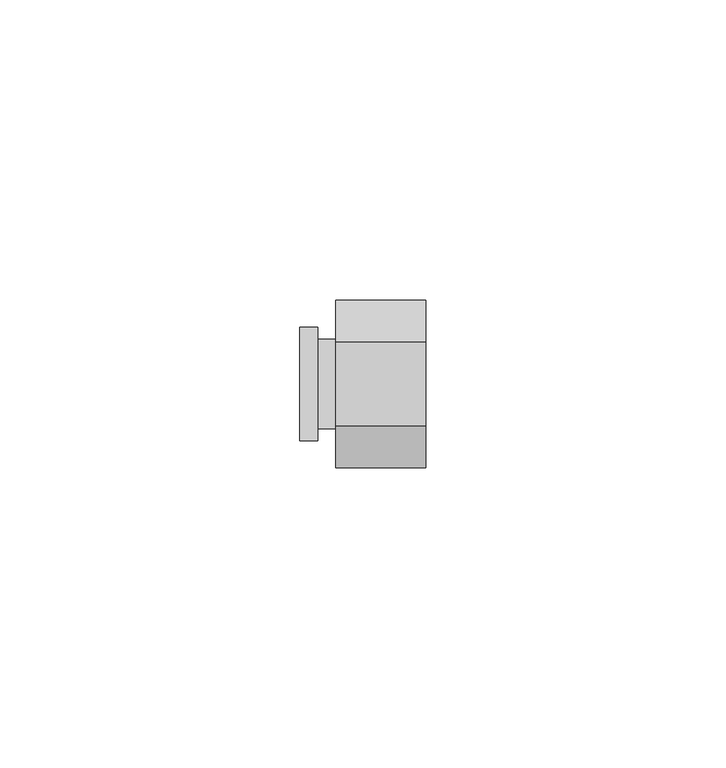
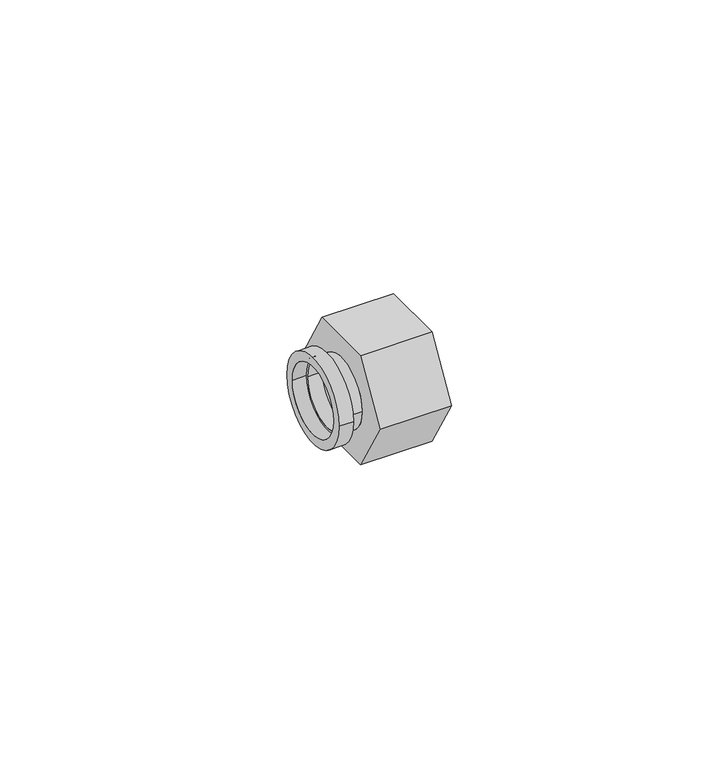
"""IFC4 building model written with IfcOpenShell, lengths in millimetres: pipe fitting geometry, БИР ПЕКС_КМП_Соединитель_Резьба_Наружная : Соединитель прямой с наружной резьбой_КМП."""

from ifc_helpers import new_model, si_unit, point, frame, origin, origin_2d, place, context, project, spatial, polyline, circle_curve, trimmed, segment, composite_curve, outline, extrude, source, transform, mapped, element, save


def pipe_fitting_99de46e3(model_context):
    return source(origin(), model_context, "Body", "SweptSolid", [
        extrude(outline(polyline([(-7.0, -12.1243557), (-14.0, 0.0), (-7.0, 12.1243557), (7.0, 12.1243557), (14.0, 0.0), (7.0, -12.1243557), (-7.0, -12.1243557)]), holes=[composite_curve([segment(trimmed(circle_curve(origin_2d(), 7.5), [point((-7.5, 0.0))], [point((7.5, 0.0))], True, "CARTESIAN"), True, "CONTINUOUS"), segment(trimmed(circle_curve(origin_2d(), 7.5), [point((7.5, 0.0))], [point((-7.5, 0.0))], True, "CARTESIAN"), True, "CONTINUOUS")], self_intersect=False)]), frame((0.0, 0.0, 0.0), z_axis=(1.0, 0.0, 0.0), x_axis=(0.0, 1.0, 0.0)), (0.0, 0.0, 1.0), 15.0),
        extrude(outline(composite_curve([segment(trimmed(circle_curve(origin_2d(), 7.5), [point((-7.5, 0.0))], [point((7.5, 0.0))], False, "CARTESIAN"), True, "CONTINUOUS"), segment(trimmed(circle_curve(origin_2d(), 7.5), [point((7.5, 0.0))], [point((-7.5, 0.0))], False, "CARTESIAN"), True, "CONTINUOUS")], self_intersect=False), holes=[composite_curve([segment(trimmed(circle_curve(origin_2d(), 7.0), [point((-7.0, 0.0))], [point((7.0, 0.0))], True, "CARTESIAN"), True, "CONTINUOUS"), segment(trimmed(circle_curve(origin_2d(), 7.0), [point((7.0, 0.0))], [point((-7.0, 0.0))], True, "CARTESIAN"), True, "CONTINUOUS")], self_intersect=False)]), frame((-3.0, 0.0, 0.0), z_axis=(1.0, 0.0, 0.0), x_axis=(0.0, 1.0, 0.0)), (0.0, 0.0, 1.0), 3.0),
        extrude(outline(composite_curve([segment(trimmed(circle_curve(origin_2d(), 9.5), [point((-9.5, 0.0))], [point((9.5, 0.0))], False, "CARTESIAN"), True, "CONTINUOUS"), segment(trimmed(circle_curve(origin_2d(), 9.5), [point((9.5, 0.0))], [point((-9.5, 0.0))], False, "CARTESIAN"), True, "CONTINUOUS")], self_intersect=False), holes=[composite_curve([segment(trimmed(circle_curve(origin_2d(), 7.5), [point((-7.5, 0.0))], [point((7.5, 0.0))], True, "CARTESIAN"), True, "CONTINUOUS"), segment(trimmed(circle_curve(origin_2d(), 7.5), [point((7.5, 0.0))], [point((-7.5, 0.0))], True, "CARTESIAN"), True, "CONTINUOUS")], self_intersect=False)]), frame((-6.0, 0.0, 0.0), z_axis=(1.0, 0.0, 0.0), x_axis=(0.0, 1.0, 0.0)), (0.0, 0.0, 1.0), 3.0),
    ])


if __name__ == "__main__":
    model = new_model("IFC4")
    model_context = context("Model", 3, world=origin())
    ifc_project = project(units=[si_unit("LENGTHUNIT", "METRE", prefix="MILLI")], contexts=[model_context])
    site = spatial("IfcSite", under=ifc_project)
    building = spatial("IfcBuilding", under=site)
    placement = place(None, origin())
    pipe_fitting_shape = pipe_fitting_99de46e3(model_context)
    element("IfcPipeFitting", 1, ObjectType="БИР ПЕКС_КМП_Соединитель_Резьба_Наружная : Соединитель прямой с наружной резьбой_КМП", at=placement, inside=building, context=model_context, shape_type="MappedRepresentation", body=[
        mapped(pipe_fitting_shape, transform((0.0, 0.0, 0.0), x_axis=(1.0, 0.0, 0.0), y_axis=(0.0, 1.0, 0.0), z_axis=(0.0, 0.0, 1.0))),
    ])
    save(model, "model.ifc")
